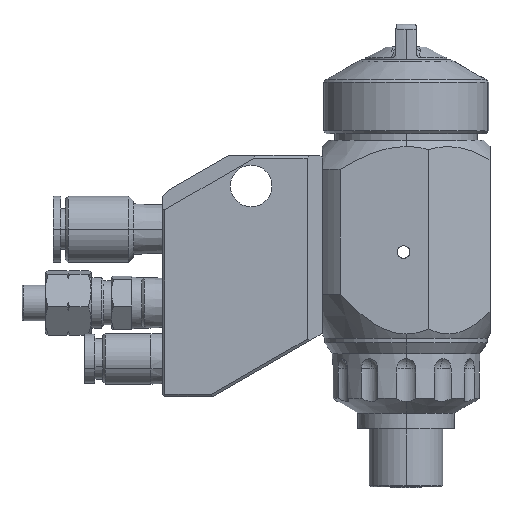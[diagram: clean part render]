
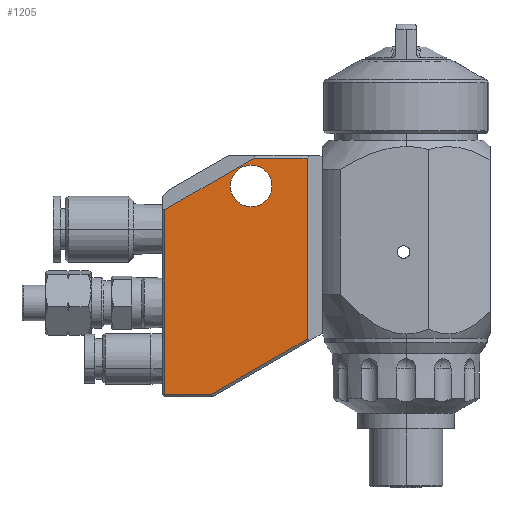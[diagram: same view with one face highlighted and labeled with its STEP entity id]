
A CAD part, left-side view. The second image highlights one B-rep face of the part: STEP entity #1205.
In plain terms, the highlighted planar face has unit normal (-1, 0, 0).
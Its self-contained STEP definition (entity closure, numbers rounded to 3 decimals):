
#150 = VECTOR ( 'NONE', #6425, 1000. ) ;
#336 = CARTESIAN_POINT ( 'NONE',  ( -16., 47.5, 31.319 ) ) ;
#494 = AXIS2_PLACEMENT_3D ( 'NONE', #11868, #4411, #10044 ) ;
#623 = DIRECTION ( 'NONE',  ( 0., 0., 1. ) ) ;
#768 = LINE ( 'NONE', #7367, #150 ) ;
#985 = EDGE_CURVE ( 'NONE', #4093, #2363, #6500, .T. ) ;
#1039 = VECTOR ( 'NONE', #4434, 1000. ) ;
#1148 = VECTOR ( 'NONE', #623, 1000. ) ;
#1205 = ADVANCED_FACE ( 'NONE', ( #1284, #5117 ), #5178, .F. ) ;
#1284 = FACE_BOUND ( 'NONE', #11066, .T. ) ;
#1538 = VERTEX_POINT ( 'NONE', #10660 ) ;
#2060 = ORIENTED_EDGE ( 'NONE', *, *, #11302, .T. ) ;
#2109 = EDGE_CURVE ( 'NONE', #2373, #12317, #7758, .T. ) ;
#2363 = VERTEX_POINT ( 'NONE', #12066 ) ;
#2373 = VERTEX_POINT ( 'NONE', #8371 ) ;
#2426 = CARTESIAN_POINT ( 'NONE',  ( -16., 47.5, 42. ) ) ;
#2978 = CARTESIAN_POINT ( 'NONE',  ( -16., 19.5, 41.5 ) ) ;
#3130 = LINE ( 'NONE', #9834, #8686 ) ;
#3178 = VERTEX_POINT ( 'NONE', #7350 ) ;
#3375 = VERTEX_POINT ( 'NONE', #11939 ) ;
#3444 = VECTOR ( 'NONE', #6759, 1000. ) ;
#3449 = CARTESIAN_POINT ( 'NONE',  ( -16., 19.5, 5.845 ) ) ;
#3727 = ORIENTED_EDGE ( 'NONE', *, *, #2109, .T. ) ;
#4093 = VERTEX_POINT ( 'NONE', #336 ) ;
#4111 = AXIS2_PLACEMENT_3D ( 'NONE', #8798, #5920, #6858 ) ;
#4398 = ORIENTED_EDGE ( 'NONE', *, *, #985, .T. ) ;
#4411 = DIRECTION ( 'NONE',  ( -1., 0., 0. ) ) ;
#4434 = DIRECTION ( 'NONE',  ( 0., 0., -1. ) ) ;
#4638 = CARTESIAN_POINT ( 'NONE',  ( -16., 1.595, 16.183 ) ) ;
#4701 = CIRCLE ( 'NONE', #4111, 4.1 ) ;
#4831 = ORIENTED_EDGE ( 'NONE', *, *, #11859, .T. ) ;
#5117 = FACE_OUTER_BOUND ( 'NONE', #5643, .T. ) ;
#5178 = PLANE ( 'NONE',  #6621 ) ;
#5306 = EDGE_CURVE ( 'NONE', #2363, #2373, #768, .T. ) ;
#5643 = EDGE_LOOP ( 'NONE', ( #4398, #8156, #3727, #2060, #7159, #4831 ) ) ;
#5920 = DIRECTION ( 'NONE',  ( -1., 0., 0. ) ) ;
#5928 = LINE ( 'NONE', #6940, #10158 ) ;
#5999 = DIRECTION ( 'NONE',  ( 1., 0., 0. ) ) ;
#6382 = ORIENTED_EDGE ( 'NONE', *, *, #9569, .F. ) ;
#6425 = DIRECTION ( 'NONE',  ( 0., -1., 0. ) ) ;
#6500 = LINE ( 'NONE', #2426, #1039 ) ;
#6621 = AXIS2_PLACEMENT_3D ( 'NONE', #9942, #5999, #8938 ) ;
#6759 = DIRECTION ( 'NONE',  ( 0., -0.866, 0.5 ) ) ;
#6858 = DIRECTION ( 'NONE',  ( 0., -1., 0. ) ) ;
#6940 = CARTESIAN_POINT ( 'NONE',  ( -16., 19.625, 47.413 ) ) ;
#6999 = ORIENTED_EDGE ( 'NONE', *, *, #9719, .F. ) ;
#7159 = ORIENTED_EDGE ( 'NONE', *, *, #7273, .T. ) ;
#7273 = EDGE_CURVE ( 'NONE', #7574, #1538, #3130, .T. ) ;
#7350 = CARTESIAN_POINT ( 'NONE',  ( -16., 34.6, 36. ) ) ;
#7367 = CARTESIAN_POINT ( 'NONE',  ( -16., 16.5, -5. ) ) ;
#7574 = VERTEX_POINT ( 'NONE', #2978 ) ;
#7758 = LINE ( 'NONE', #4638, #3444 ) ;
#7965 = DIRECTION ( 'NONE',  ( 0., 1., 0. ) ) ;
#8047 = LINE ( 'NONE', #10909, #1148 ) ;
#8156 = ORIENTED_EDGE ( 'NONE', *, *, #5306, .T. ) ;
#8371 = CARTESIAN_POINT ( 'NONE',  ( -16., 38.285, -5. ) ) ;
#8686 = VECTOR ( 'NONE', #7965, 1000. ) ;
#8798 = CARTESIAN_POINT ( 'NONE',  ( -16., 30.5, 36. ) ) ;
#8938 = DIRECTION ( 'NONE',  ( 0., 1., 0. ) ) ;
#9569 = EDGE_CURVE ( 'NONE', #3375, #3178, #4701, .T. ) ;
#9719 = EDGE_CURVE ( 'NONE', #3178, #3375, #11285, .T. ) ;
#9834 = CARTESIAN_POINT ( 'NONE',  ( -16., 29., 41.5 ) ) ;
#9942 = CARTESIAN_POINT ( 'NONE',  ( -16., 16.5, 42. ) ) ;
#10044 = DIRECTION ( 'NONE',  ( 0., -1., 0. ) ) ;
#10158 = VECTOR ( 'NONE', #10805, 1000. ) ;
#10660 = CARTESIAN_POINT ( 'NONE',  ( -16., 29.866, 41.5 ) ) ;
#10805 = DIRECTION ( 'NONE',  ( 0., 0.866, -0.5 ) ) ;
#10909 = CARTESIAN_POINT ( 'NONE',  ( -16., 19.5, 42. ) ) ;
#11066 = EDGE_LOOP ( 'NONE', ( #6382, #6999 ) ) ;
#11285 = CIRCLE ( 'NONE', #494, 4.1 ) ;
#11302 = EDGE_CURVE ( 'NONE', #12317, #7574, #8047, .T. ) ;
#11859 = EDGE_CURVE ( 'NONE', #1538, #4093, #5928, .T. ) ;
#11868 = CARTESIAN_POINT ( 'NONE',  ( -16., 30.5, 36. ) ) ;
#11939 = CARTESIAN_POINT ( 'NONE',  ( -16., 26.4, 36. ) ) ;
#12066 = CARTESIAN_POINT ( 'NONE',  ( -16., 47.5, -5. ) ) ;
#12317 = VERTEX_POINT ( 'NONE', #3449 ) ;
